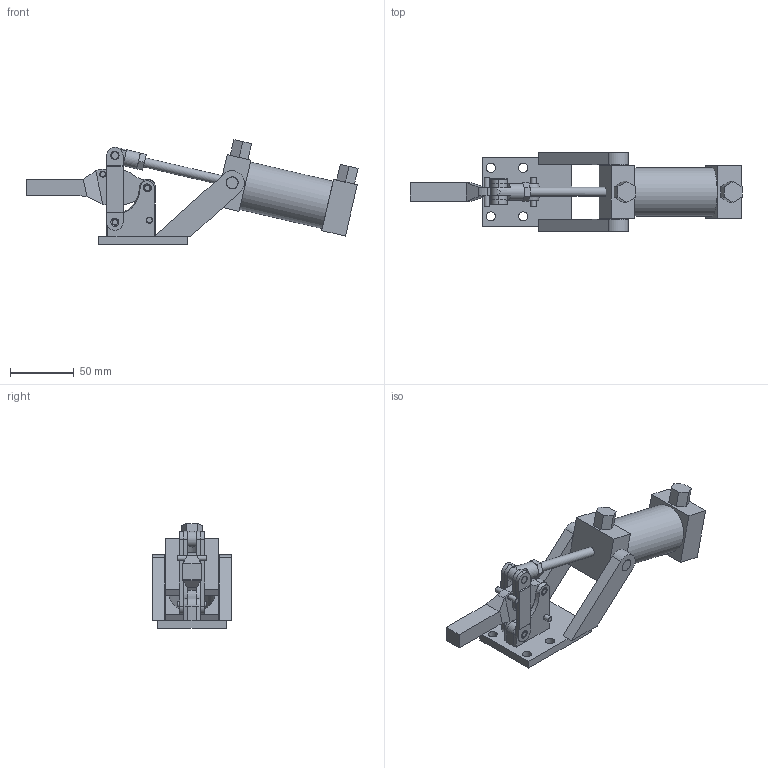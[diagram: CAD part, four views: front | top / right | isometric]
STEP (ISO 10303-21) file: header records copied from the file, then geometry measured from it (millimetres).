
FILE_DESCRIPTION(/* description */ (''),/* implementation_level */ '2;1');
FILE_NAME(/* name */ 'a1905',/* time_stamp */ '2002-06-20T12:24:56-05:00',/* author */ (''),/* organization */ (''),/* preprocessor_version */ 'ST-DEVELOPER v8',/* originating_system */ 'UNIGRAPHICS SOLUTIONS - UNIGRAPHICS 18.0',/* authorisation */ '');
FILE_SCHEMA (('CONFIG_CONTROL_DESIGN'));
Length unit declared in the file: inch
Products named in the file (1): gues215F001i
Bounding box: 260.56 x 61.91 x 82.35 mm (x, y, z)
Volume: 237523.4 mm3; surface area: 61640.5 mm2
Topology: 17 solids, 17 shells, 212 faces, 497 edges, 326 vertices
Faces by surface type: plane 137, cylinder 63, cone 12
Full cylindrical faces by diameter (mm): 4.242 x1, 4.28 x3, 4.369 x1, 4.75 x1, 4.788 x6, 4.877 x1, 5.905 x2, 6.299 x3, 6.413 x5, 7.144 x5, 7.938 x1, 9.093 x1, 9.601 x2, 12.7 x1, 38.1 x1
Entity records: 5983 total; most frequent: DIRECTION 1021, CARTESIAN_POINT 1006, ORIENTED_EDGE 908, EDGE_CURVE 454, AXIS2_PLACEMENT_3D 358, VERTEX_POINT 323, LINE 305, VECTOR 305
